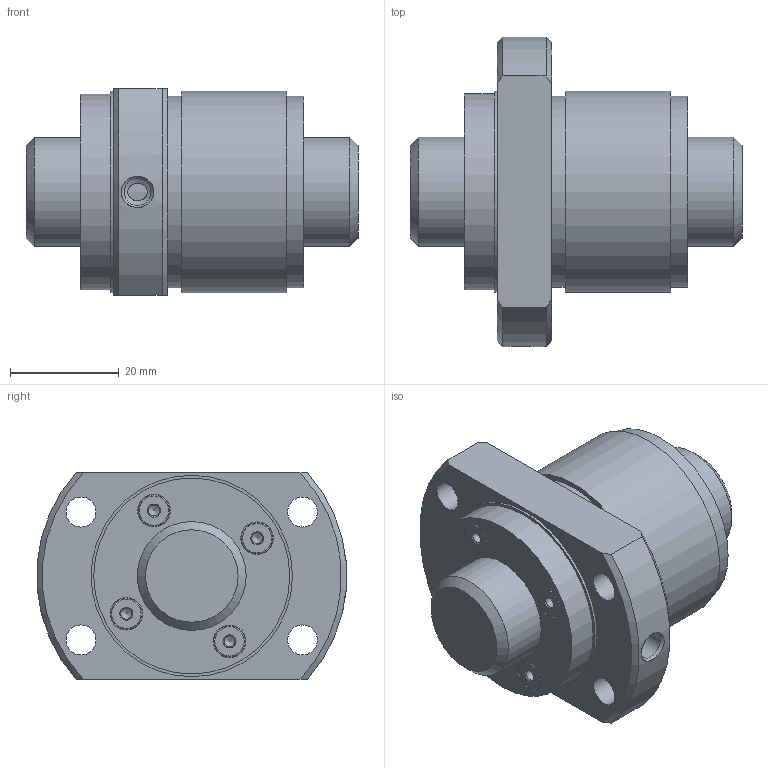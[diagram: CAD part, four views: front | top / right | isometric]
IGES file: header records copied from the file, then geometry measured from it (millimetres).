
Start section: Data from Parasolid IGES Translator 26.0.171, Copyright(c) 2006 Siemens PLM Software. All Rights Reserved.
Global section: file name: WGF2040-1G1+61LC3_0_13_0_0.igs; native system: By Siemens PLM Incorporated; preprocessor: XPlus GENERIC/IGES 26.0.171; author: Noname; organization: Noname; date: 20250116.062538; units: millimetre
Bounding box: 61 x 56.91 x 38 mm (x, y, z)
Surface area: 17197.5 mm2 (no closed solid volume)
Topology: 0 solids, 0 shells, 65 faces, 262 edges, 207 vertices
Faces by surface type: revolution 46, extrusion 19
